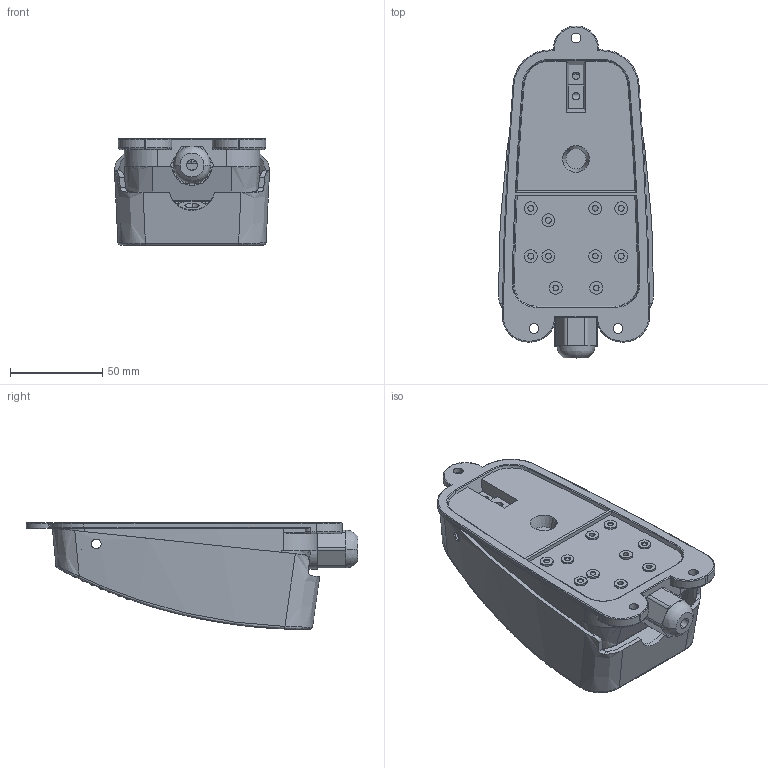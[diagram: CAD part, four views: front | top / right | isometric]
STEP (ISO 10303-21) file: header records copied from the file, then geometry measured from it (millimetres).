
FILE_DESCRIPTION((''),'2;1');
FILE_NAME('CFS-3','2024-05-17T',('Administrator'),(''),'CREO PARAMETRIC BY PTC INC, 2017300','CREO PARAMETRIC BY PTC INC, 2017300','');
FILE_SCHEMA(('CONFIG_CONTROL_DESIGN'));
Products named in the file (4): CFS-3DIZUO; CFS-3GAI; CFS-DIANLANSUOTOU; CFS-3
Assembly tree (3 placements, depth 2):
  CFS-3
    CFS-3DIZUO
    CFS-3GAI
    CFS-DIANLANSUOTOU
Bounding box: 84.19 x 180.1 x 58 mm (x, y, z)
Volume: 136741.6 mm3; surface area: 94241.1 mm2
Topology: 3 solids, 3 shells, 1418 faces, 3433 edges, 2176 vertices
Faces by surface type: bspline 957, cylinder 285, plane 132, torus 30, cone 14
Entity records: 103955 total; most frequent: CARTESIAN_POINT 67354, ORIENTED_EDGE 6866, EDGE_CURVE 3433, PRESENTATION_STYLE_ASSIGNMENT 3351, STYLED_ITEM 3351, CURVE_STYLE 3349, DIRECTION 2432, B_SPLINE_CURVE_WITH_KNOTS 2430
